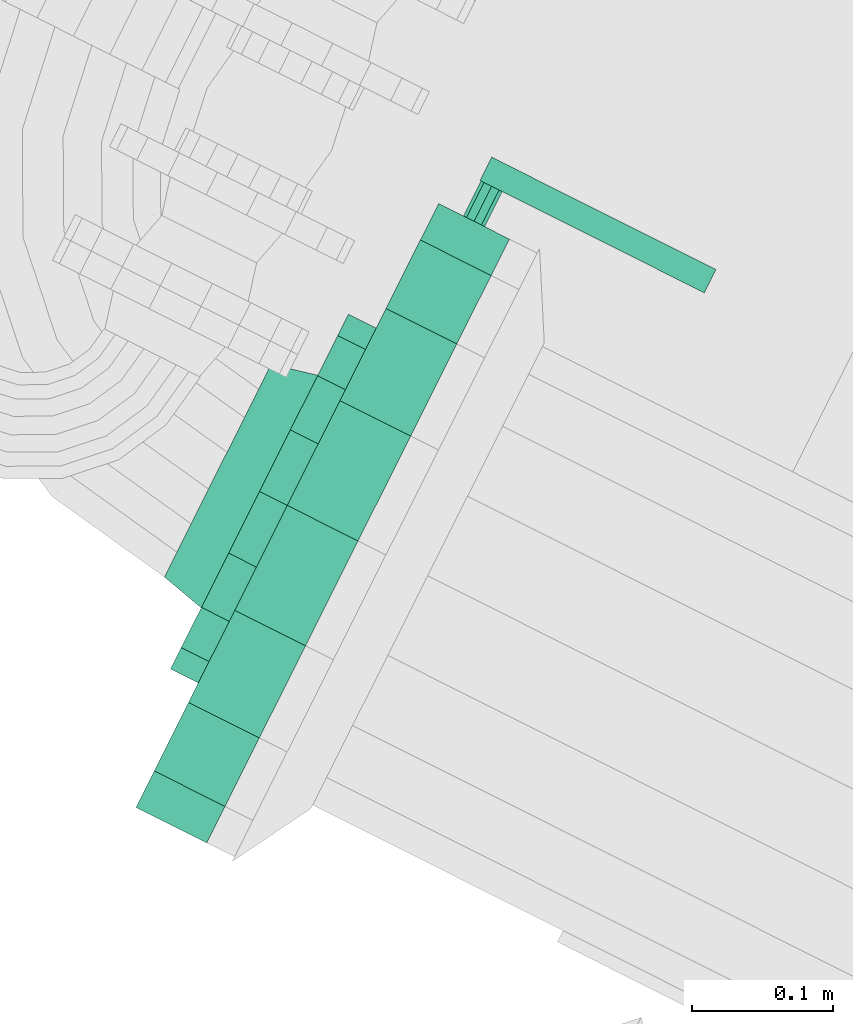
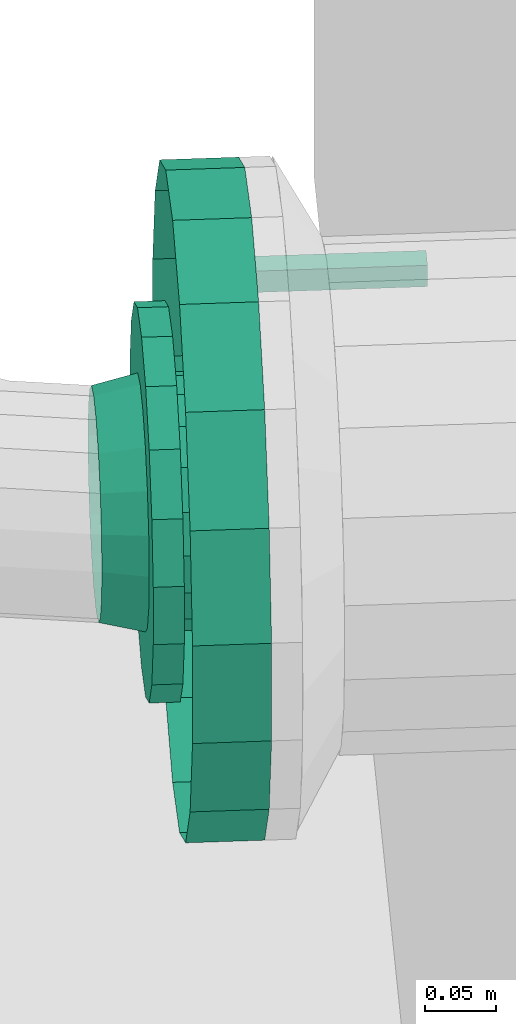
# One storey, part 43 of 206: 1 flow controller, 1 flow fitting.
"""IFC2X3 building model written with IfcOpenShell, lengths in metres."""

from ifc_helpers import new_model, si_unit, derived_unit, direction, frame, origin, place, context, subcontext, project, spatial, face_set, surface_model, source, transform, mapped, material, type_object, type_shapes, element, save


model = new_model("IFC2X3")

# Units and contexts
model_context = context("Model", 3, precision=5.2338327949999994e-05, world=origin(), true_north=direction((0.0, 1.0)))
body_context = subcontext(model_context, "Body", "Model", "MODEL_VIEW")
ifc_project = project(units=[si_unit("LENGTHUNIT", "METRE"), si_unit("AREAUNIT", "SQUARE_METRE"), si_unit("VOLUMEUNIT", "CUBIC_METRE"), si_unit("MASSUNIT", "GRAM", prefix="KILO"), si_unit("PLANEANGLEUNIT", "RADIAN"), derived_unit("THERMALTRANSMITTANCEUNIT", [(si_unit("MASSUNIT", "GRAM", prefix="KILO"), 1), (si_unit("THERMODYNAMICTEMPERATUREUNIT", "KELVIN"), -1), (si_unit("TIMEUNIT", "SECOND"), -3)])], contexts=[model_context])

# Site, building, storey
site_placement = place(None, frame((0.0, 0.0, 0.0), z_axis=(0.0, 0.0, 1.0), x_axis=(0.8939966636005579, -0.4480736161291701, 0.0)))
site = spatial("IfcSite", under=ifc_project, at=site_placement, Name="Default", CompositionType="ELEMENT")
building_placement = place(site_placement, origin())
building = spatial("IfcBuilding", under=site, at=building_placement, CompositionType="ELEMENT")
storey_placement = place(building_placement, origin())
storey = spatial("IfcBuildingStorey", under=building, at=storey_placement, Name="Erdgeschoss", CompositionType="ELEMENT", Elevation=0.0)

# Flow controller
ifc_material = material(Name="IfcSurfaceStyle #9317")
distribution_element_type_1 = type_object("IfcDistributionElementType", Name="Zwischenflanschklappe 342931:Zwischenflanschklappe 342931", material=ifc_material)
shared_shape_1 = source(origin(), body_context, "Body", "SurfaceModel", [
    surface_model("IfcFaceBasedSurfaceModel", [(22.686824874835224, 5.135912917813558, 2.3448), (22.509324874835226, 5.135912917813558, 2.3448), (22.509324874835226, 5.135912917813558, 2.3632), (22.686824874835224, 5.135912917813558, 2.3632), (22.509324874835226, 5.1543129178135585, 2.3632), (22.686824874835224, 5.1543129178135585, 2.3632), (22.509324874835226, 5.1543129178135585, 2.3448), (22.686824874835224, 5.1543129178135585, 2.3448), (22.546524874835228, 4.869312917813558, 2.445999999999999), (22.546524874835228, 4.900778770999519, 2.440451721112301), (22.52785820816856, 4.900778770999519, 2.440451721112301), (22.52785820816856, 4.869312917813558, 2.445999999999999), (22.546524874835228, 4.9284493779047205, 2.4244760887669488), (22.52785820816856, 4.9284493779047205, 2.4244760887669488), (22.546524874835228, 4.948987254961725, 2.3999999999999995), (22.52785820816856, 4.948987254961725, 2.3999999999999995), (22.546524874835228, 4.95991523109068, 2.3699756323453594), (22.52785820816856, 4.95991523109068, 2.3699756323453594), (22.546524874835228, 4.95991523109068, 2.338024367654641), (22.52785820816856, 4.95991523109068, 2.338024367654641), (22.546524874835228, 4.948987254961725, 2.3080000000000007), (22.52785820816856, 4.948987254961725, 2.3080000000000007), (22.546524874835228, 4.9284493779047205, 2.283523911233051), (22.52785820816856, 4.9284493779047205, 2.283523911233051), (22.546524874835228, 4.900778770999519, 2.2675482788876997), (22.52785820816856, 4.900778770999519, 2.2675482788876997), (22.546524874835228, 4.869312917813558, 2.2620000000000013), (22.52785820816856, 4.869312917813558, 2.2620000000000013), (22.546524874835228, 4.837847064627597, 2.2675482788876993), (22.52785820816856, 4.837847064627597, 2.2675482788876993), (22.546524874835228, 4.810176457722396, 2.283523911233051), (22.52785820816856, 4.810176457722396, 2.283523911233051), (22.546524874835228, 4.7896385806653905, 2.3080000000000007), (22.52785820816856, 4.7896385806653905, 2.3080000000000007), (22.546524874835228, 4.778710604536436, 2.338024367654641), (22.52785820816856, 4.778710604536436, 2.338024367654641), (22.546524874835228, 4.778710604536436, 2.3699756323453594), (22.52785820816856, 4.778710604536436, 2.3699756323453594), (22.546524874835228, 4.78963858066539, 2.3999999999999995), (22.52785820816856, 4.78963858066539, 2.3999999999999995), (22.546524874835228, 4.810176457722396, 2.4244760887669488), (22.52785820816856, 4.810176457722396, 2.4244760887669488), (22.546524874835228, 4.837847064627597, 2.440451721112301), (22.52785820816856, 4.837847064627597, 2.440451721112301), (22.546524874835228, 4.869312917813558, 2.354), (22.52785820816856, 4.869312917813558, 2.354), (22.52785820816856, 4.869312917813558, 2.4964999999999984), (22.52785820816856, 4.918050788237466, 2.4879061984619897), (22.509191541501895, 4.918050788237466, 2.4879061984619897), (22.509191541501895, 4.869312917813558, 2.4964999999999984), (22.52785820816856, 4.9609101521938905, 2.463161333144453), (22.509191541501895, 4.9609101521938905, 2.463161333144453), (22.52785820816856, 4.992721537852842, 2.4252499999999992), (22.509191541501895, 4.992721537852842, 2.4252499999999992), (22.52785820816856, 5.009648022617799, 2.378744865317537), (22.509191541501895, 5.009648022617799, 2.378744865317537), (22.52785820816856, 5.009648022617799, 2.3292551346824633), (22.509191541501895, 5.009648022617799, 2.3292551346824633), (22.52785820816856, 4.992721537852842, 2.282750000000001), (22.509191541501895, 4.992721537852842, 2.282750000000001), (22.52785820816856, 4.9609101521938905, 2.244838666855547), (22.509191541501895, 4.9609101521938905, 2.244838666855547), (22.52785820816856, 4.918050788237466, 2.2200938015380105), (22.509191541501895, 4.918050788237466, 2.2200938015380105), (22.52785820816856, 4.869312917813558, 2.211500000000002), (22.509191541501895, 4.869312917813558, 2.211500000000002), (22.52785820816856, 4.820575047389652, 2.2200938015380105), (22.509191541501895, 4.820575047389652, 2.2200938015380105), (22.52785820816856, 4.777715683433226, 2.2448386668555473), (22.509191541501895, 4.777715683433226, 2.2448386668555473), (22.52785820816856, 4.745904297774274, 2.2827500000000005), (22.509191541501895, 4.745904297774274, 2.2827500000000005), (22.52785820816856, 4.728977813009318, 2.3292551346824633), (22.509191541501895, 4.728977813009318, 2.3292551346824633), (22.52785820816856, 4.728977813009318, 2.378744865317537), (22.509191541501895, 4.728977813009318, 2.378744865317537), (22.52785820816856, 4.745904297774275, 2.4252499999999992), (22.509191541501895, 4.745904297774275, 2.4252499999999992), (22.52785820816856, 4.777715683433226, 2.463161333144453), (22.509191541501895, 4.777715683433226, 2.463161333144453), (22.52785820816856, 4.820575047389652, 2.4879061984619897), (22.509191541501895, 4.820575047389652, 2.4879061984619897), (22.509191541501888, 4.869312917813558, 2.354), (22.509191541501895, 4.869312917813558, 2.445999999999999), (22.509191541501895, 4.900778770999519, 2.440451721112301), (22.490524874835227, 4.900778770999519, 2.440451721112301), (22.490524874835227, 4.869312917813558, 2.445999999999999), (22.509191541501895, 4.9284493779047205, 2.4244760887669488), (22.490524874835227, 4.9284493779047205, 2.4244760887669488), (22.509191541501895, 4.948987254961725, 2.3999999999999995), (22.490524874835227, 4.948987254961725, 2.3999999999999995), (22.509191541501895, 4.95991523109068, 2.3699756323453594), (22.490524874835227, 4.95991523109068, 2.3699756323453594), (22.509191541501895, 4.95991523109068, 2.338024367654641), (22.490524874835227, 4.95991523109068, 2.338024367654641), (22.509191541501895, 4.948987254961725, 2.3080000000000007), (22.490524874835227, 4.948987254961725, 2.3080000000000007), (22.509191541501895, 4.9284493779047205, 2.283523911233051), (22.490524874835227, 4.9284493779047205, 2.283523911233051), (22.509191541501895, 4.900778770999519, 2.2675482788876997), (22.490524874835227, 4.900778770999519, 2.2675482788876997), (22.509191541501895, 4.869312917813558, 2.2620000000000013), (22.490524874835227, 4.869312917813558, 2.2620000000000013), (22.509191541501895, 4.837847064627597, 2.2675482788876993), (22.490524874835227, 4.837847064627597, 2.2675482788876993), (22.509191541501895, 4.810176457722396, 2.283523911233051), (22.490524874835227, 4.810176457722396, 2.283523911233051), (22.509191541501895, 4.7896385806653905, 2.3080000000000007), (22.490524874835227, 4.7896385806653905, 2.3080000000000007), (22.509191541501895, 4.778710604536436, 2.338024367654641), (22.490524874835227, 4.778710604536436, 2.338024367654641), (22.509191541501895, 4.778710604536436, 2.3699756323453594), (22.490524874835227, 4.778710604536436, 2.3699756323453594), (22.509191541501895, 4.78963858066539, 2.3999999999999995), (22.490524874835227, 4.78963858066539, 2.3999999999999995), (22.509191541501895, 4.810176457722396, 2.4244760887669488), (22.490524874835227, 4.810176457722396, 2.4244760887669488), (22.509191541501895, 4.837847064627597, 2.440451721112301), (22.490524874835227, 4.837847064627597, 2.440451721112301), (22.490524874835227, 4.869312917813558, 2.354), (22.51852487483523, 4.869312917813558, 2.3633333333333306), (22.521717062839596, 4.869312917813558, 2.362770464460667), (22.521717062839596, 5.073862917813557, 2.362770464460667), (22.51852487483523, 5.073862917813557, 2.3633333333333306), (22.524524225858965, 4.869312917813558, 2.3611497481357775), (22.524524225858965, 5.073862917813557, 2.3611497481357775), (22.526607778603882, 4.869312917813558, 2.3586666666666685), (22.526607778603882, 5.073862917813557, 2.3586666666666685), (22.52771641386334, 4.869312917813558, 2.35562071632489), (22.52771641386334, 5.073862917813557, 2.35562071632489), (22.52771641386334, 4.869312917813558, 2.35237928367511), (22.52771641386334, 5.073862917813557, 2.35237928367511), (22.526607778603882, 4.869312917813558, 2.3493333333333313), (22.526607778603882, 5.073862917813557, 2.3493333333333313), (22.524524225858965, 4.869312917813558, 2.3468502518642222), (22.524524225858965, 5.073862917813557, 2.3468502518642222), (22.521717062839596, 4.869312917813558, 2.3452295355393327), (22.521717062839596, 5.073862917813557, 2.3452295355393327), (22.51852487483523, 4.869312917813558, 2.3446666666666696), (22.51852487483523, 5.073862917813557, 2.3446666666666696), (22.515332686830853, 4.869312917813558, 2.3452295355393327), (22.515332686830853, 5.073862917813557, 2.3452295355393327), (22.512525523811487, 4.869312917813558, 2.3468502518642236), (22.512525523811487, 5.073862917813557, 2.3468502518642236), (22.510441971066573, 4.869312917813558, 2.3493333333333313), (22.510441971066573, 5.073862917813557, 2.3493333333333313), (22.50933333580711, 4.869312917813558, 2.35237928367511), (22.50933333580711, 5.073862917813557, 2.35237928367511), (22.50933333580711, 4.869312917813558, 2.35562071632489), (22.50933333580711, 5.073862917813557, 2.35562071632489), (22.510441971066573, 4.869312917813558, 2.3586666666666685), (22.510441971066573, 5.073862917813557, 2.3586666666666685), (22.512525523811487, 4.869312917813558, 2.3611497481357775), (22.512525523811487, 5.073862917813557, 2.3611497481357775), (22.515332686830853, 4.869312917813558, 2.362770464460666), (22.515332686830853, 5.073862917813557, 2.362770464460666), (22.51852487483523, 4.869312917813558, 2.354), (22.51852487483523, 5.073862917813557, 2.354), (22.51852487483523, 5.073862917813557, 2.3624149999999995), (22.52447517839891, 5.073862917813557, 2.359950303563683), (22.52447517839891, 5.135912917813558, 2.359950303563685), (22.51852487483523, 5.135912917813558, 2.3624150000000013), (22.52693987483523, 5.073862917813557, 2.3540000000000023), (22.52693987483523, 5.135912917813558, 2.3540000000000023), (22.52447517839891, 5.073862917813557, 2.3480496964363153), (22.52447517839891, 5.135912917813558, 2.3480496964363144), (22.51852487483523, 5.073862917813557, 2.3455850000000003), (22.51852487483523, 5.135912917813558, 2.3455850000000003), (22.51257457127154, 5.073862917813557, 2.348049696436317), (22.51257457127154, 5.135912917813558, 2.3480496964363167), (22.51010987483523, 5.073862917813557, 2.354000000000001), (22.51010987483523, 5.135912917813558, 2.354000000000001), (22.51257457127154, 5.073862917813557, 2.3599503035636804), (22.51257457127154, 5.135912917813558, 2.3599503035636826), (22.51852487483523, 5.135912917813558, 2.354), (22.546524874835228, 4.869312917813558, 2.5965000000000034), (22.546524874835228, 4.952252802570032, 2.5818754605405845), (22.490524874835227, 4.952252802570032, 2.5818754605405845), (22.490524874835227, 4.869312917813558, 2.5965000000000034), (22.546524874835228, 5.025188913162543, 2.539765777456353), (22.490524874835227, 5.025188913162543, 2.539765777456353), (22.546524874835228, 5.0793240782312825, 2.475250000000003), (22.490524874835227, 5.0793240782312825, 2.475250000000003), (22.546524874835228, 5.108128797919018, 2.396109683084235), (22.490524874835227, 5.108128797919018, 2.396109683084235), (22.546524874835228, 5.108128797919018, 2.3118903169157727), (22.490524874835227, 5.108128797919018, 2.3118903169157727), (22.546524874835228, 5.079324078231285, 2.2327500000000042), (22.490524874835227, 5.079324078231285, 2.2327500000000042), (22.546524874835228, 5.025188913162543, 2.16823422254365), (22.490524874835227, 5.025188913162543, 2.16823422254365), (22.546524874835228, 4.952252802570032, 2.1261245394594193), (22.490524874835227, 4.952252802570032, 2.1261245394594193), (22.546524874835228, 4.869312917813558, 2.1115000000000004), (22.490524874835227, 4.869312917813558, 2.1115000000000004), (22.546524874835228, 4.786373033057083, 2.1261245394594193), (22.490524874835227, 4.786373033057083, 2.1261245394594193), (22.546524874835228, 4.713436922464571, 2.16823422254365), (22.490524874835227, 4.713436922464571, 2.16823422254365), (22.546524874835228, 4.6593017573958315, 2.2327500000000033), (22.490524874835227, 4.6593017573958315, 2.2327500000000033), (22.546524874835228, 4.630497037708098, 2.311890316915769), (22.490524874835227, 4.630497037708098, 2.311890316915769), (22.546524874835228, 4.630497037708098, 2.396109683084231), (22.490524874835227, 4.630497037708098, 2.396109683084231), (22.546524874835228, 4.65930175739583, 2.475250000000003), (22.490524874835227, 4.65930175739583, 2.475250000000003), (22.546524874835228, 4.713436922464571, 2.539765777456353), (22.490524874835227, 4.713436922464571, 2.539765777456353), (22.546524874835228, 4.786373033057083, 2.5818754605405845), (22.490524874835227, 4.786373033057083, 2.5818754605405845)], [face_set([[[0, 1, 2, 3]], [[3, 2, 4, 5]], [[5, 4, 6, 7]], [[7, 6, 1, 0]], [[0, 3, 5, 7]], [[6, 4, 2, 1]], [[8, 9, 10, 11]], [[9, 12, 13, 10]], [[12, 14, 15, 13]], [[14, 16, 17, 15]], [[16, 18, 19, 17]], [[18, 20, 21, 19]], [[20, 22, 23, 21]], [[22, 24, 25, 23]], [[24, 26, 27, 25]], [[26, 28, 29, 27]], [[28, 30, 31, 29]], [[30, 32, 33, 31]], [[32, 34, 35, 33]], [[34, 36, 37, 35]], [[36, 38, 39, 37]], [[38, 40, 41, 39]], [[40, 42, 43, 41]], [[42, 8, 11, 43]], [[44, 9, 8]], [[44, 12, 9]], [[44, 14, 12]], [[44, 16, 14]], [[44, 18, 16]], [[44, 20, 18]], [[44, 22, 20]], [[44, 24, 22]], [[44, 26, 24]], [[44, 28, 26]], [[44, 30, 28]], [[44, 32, 30]], [[44, 34, 32]], [[44, 36, 34]], [[44, 38, 36]], [[44, 40, 38]], [[44, 42, 40]], [[44, 8, 42]], [[45, 43, 11]], [[45, 41, 43]], [[45, 39, 41]], [[45, 37, 39]], [[45, 35, 37]], [[45, 33, 35]], [[45, 31, 33]], [[45, 29, 31]], [[45, 27, 29]], [[45, 25, 27]], [[45, 23, 25]], [[45, 21, 23]], [[45, 19, 21]], [[45, 17, 19]], [[45, 15, 17]], [[45, 13, 15]], [[45, 10, 13]], [[45, 11, 10]], [[46, 47, 48, 49]], [[47, 50, 51, 48]], [[50, 52, 53, 51]], [[52, 54, 55, 53]], [[54, 56, 57, 55]], [[56, 58, 59, 57]], [[58, 60, 61, 59]], [[60, 62, 63, 61]], [[62, 64, 65, 63]], [[64, 66, 67, 65]], [[66, 68, 69, 67]], [[68, 70, 71, 69]], [[70, 72, 73, 71]], [[72, 74, 75, 73]], [[74, 76, 77, 75]], [[76, 78, 79, 77]], [[78, 80, 81, 79]], [[80, 46, 49, 81]], [[45, 47, 46]], [[45, 50, 47]], [[45, 52, 50]], [[45, 54, 52]], [[45, 56, 54]], [[45, 58, 56]], [[45, 60, 58]], [[45, 62, 60]], [[45, 64, 62]], [[45, 66, 64]], [[45, 68, 66]], [[45, 70, 68]], [[45, 72, 70]], [[45, 74, 72]], [[45, 76, 74]], [[45, 78, 76]], [[45, 80, 78]], [[45, 46, 80]], [[82, 81, 49]], [[82, 79, 81]], [[82, 77, 79]], [[82, 75, 77]], [[82, 73, 75]], [[82, 71, 73]], [[82, 69, 71]], [[82, 67, 69]], [[82, 65, 67]], [[82, 63, 65]], [[82, 61, 63]], [[82, 59, 61]], [[82, 57, 59]], [[82, 55, 57]], [[82, 53, 55]], [[82, 51, 53]], [[82, 48, 51]], [[82, 49, 48]], [[83, 84, 85, 86]], [[84, 87, 88, 85]], [[87, 89, 90, 88]], [[89, 91, 92, 90]], [[91, 93, 94, 92]], [[93, 95, 96, 94]], [[95, 97, 98, 96]], [[97, 99, 100, 98]], [[99, 101, 102, 100]], [[101, 103, 104, 102]], [[103, 105, 106, 104]], [[105, 107, 108, 106]], [[107, 109, 110, 108]], [[109, 111, 112, 110]], [[111, 113, 114, 112]], [[113, 115, 116, 114]], [[115, 117, 118, 116]], [[117, 83, 86, 118]], [[82, 84, 83]], [[82, 87, 84]], [[82, 89, 87]], [[82, 91, 89]], [[82, 93, 91]], [[82, 95, 93]], [[82, 97, 95]], [[82, 99, 97]], [[82, 101, 99]], [[82, 103, 101]], [[82, 105, 103]], [[82, 107, 105]], [[82, 109, 107]], [[82, 111, 109]], [[82, 113, 111]], [[82, 115, 113]], [[82, 117, 115]], [[82, 83, 117]], [[119, 118, 86]], [[119, 116, 118]], [[119, 114, 116]], [[119, 112, 114]], [[119, 110, 112]], [[119, 108, 110]], [[119, 106, 108]], [[119, 104, 106]], [[119, 102, 104]], [[119, 100, 102]], [[119, 98, 100]], [[119, 96, 98]], [[119, 94, 96]], [[119, 92, 94]], [[119, 90, 92]], [[119, 88, 90]], [[119, 85, 88]], [[119, 86, 85]], [[120, 121, 122, 123]], [[121, 124, 125, 122]], [[124, 126, 127, 125]], [[126, 128, 129, 127]], [[128, 130, 131, 129]], [[130, 132, 133, 131]], [[132, 134, 135, 133]], [[134, 136, 137, 135]], [[136, 138, 139, 137]], [[138, 140, 141, 139]], [[140, 142, 143, 141]], [[142, 144, 145, 143]], [[144, 146, 147, 145]], [[146, 148, 149, 147]], [[148, 150, 151, 149]], [[150, 152, 153, 151]], [[152, 154, 155, 153]], [[154, 120, 123, 155]], [[156, 121, 120]], [[156, 124, 121]], [[156, 126, 124]], [[156, 128, 126]], [[156, 130, 128]], [[156, 132, 130]], [[156, 134, 132]], [[156, 136, 134]], [[156, 138, 136]], [[156, 140, 138]], [[156, 142, 140]], [[156, 144, 142]], [[156, 146, 144]], [[156, 148, 146]], [[156, 150, 148]], [[156, 152, 150]], [[156, 154, 152]], [[156, 120, 154]], [[157, 155, 123]], [[157, 153, 155]], [[157, 151, 153]], [[157, 149, 151]], [[157, 147, 149]], [[157, 145, 147]], [[157, 143, 145]], [[157, 141, 143]], [[157, 139, 141]], [[157, 137, 139]], [[157, 135, 137]], [[157, 133, 135]], [[157, 131, 133]], [[157, 129, 131]], [[157, 127, 129]], [[157, 125, 127]], [[157, 122, 125]], [[157, 123, 122]], [[158, 159, 160, 161]], [[159, 162, 163, 160]], [[162, 164, 165, 163]], [[164, 166, 167, 165]], [[166, 168, 169, 167]], [[168, 170, 171, 169]], [[170, 172, 173, 171]], [[172, 158, 161, 173]], [[174, 173, 161]], [[174, 171, 173]], [[174, 169, 171]], [[174, 167, 169]], [[174, 165, 167]], [[174, 163, 165]], [[174, 160, 163]], [[174, 161, 160]], [[175, 176, 177, 178]], [[176, 179, 180, 177]], [[179, 181, 182, 180]], [[181, 183, 184, 182]], [[183, 185, 186, 184]], [[185, 187, 188, 186]], [[187, 189, 190, 188]], [[189, 191, 192, 190]], [[191, 193, 194, 192]], [[193, 195, 196, 194]], [[195, 197, 198, 196]], [[197, 199, 200, 198]], [[199, 201, 202, 200]], [[201, 203, 204, 202]], [[203, 205, 206, 204]], [[205, 207, 208, 206]], [[207, 209, 210, 208]], [[209, 175, 178, 210]]])]),
])
type_shapes(distribution_element_type_1, [shared_shape_1])
flow_controller_placement = place(storey_placement, origin())
element("IfcFlowController", 1, at=flow_controller_placement, inside=storey, type_object=distribution_element_type_1, material=ifc_material, Name="Zwischenflanschklappe", ObjectType="Zwischenflanschklappe", context=body_context, shape_type="MappedRepresentation", body=[
    mapped(shared_shape_1, transform((0.0, 0.0, 0.0), scale=1.0)),
])

# Flow fitting
distribution_element_type_2 = type_object("IfcDistributionElementType", Name="Flansch 342954:Flansch 342954", material=ifc_material)
shared_shape_2 = source(origin(), body_context, "Body", "SurfaceModel", [
    surface_model("IfcFaceBasedSurfaceModel", [(22.435524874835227, 4.785162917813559, 2.3539999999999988), (22.435524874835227, 4.790237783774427, 2.3252190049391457), (22.46852487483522, 4.7828611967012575, 2.3225341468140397), (22.46852487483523, 4.777312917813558, 2.3539999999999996), (22.435524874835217, 4.804850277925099, 2.29990942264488), (22.46852487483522, 4.798836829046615, 2.2948635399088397), (22.435524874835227, 4.827237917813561, 2.28112396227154), (22.46852487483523, 4.823312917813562, 2.2743256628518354), (22.43552487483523, 4.85470042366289, 2.271128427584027), (22.46852487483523, 4.853337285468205, 2.2633976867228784), (22.43552487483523, 4.883925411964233, 2.2711284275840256), (22.46852487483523, 4.88528855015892, 2.2633976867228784), (22.43552487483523, 4.911387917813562, 2.2811239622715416), (22.46852487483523, 4.915312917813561, 2.274325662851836), (22.435524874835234, 4.933775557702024, 2.2999094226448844), (22.468524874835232, 4.939789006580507, 2.2948635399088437), (22.435524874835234, 4.948388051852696, 2.325219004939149), (22.468524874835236, 4.955764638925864, 2.3225341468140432), (22.435524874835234, 4.953462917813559, 2.354000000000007), (22.468524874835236, 4.96131291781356, 2.3540000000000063), (22.435524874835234, 4.948388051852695, 2.3827809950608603), (22.468524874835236, 4.955764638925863, 2.3854658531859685), (22.435524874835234, 4.933775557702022, 2.4080905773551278), (22.46852487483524, 4.939789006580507, 2.4131364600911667), (22.435524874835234, 4.911387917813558, 2.426876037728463), (22.468524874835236, 4.915312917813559, 2.4336743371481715), (22.435524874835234, 4.883925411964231, 2.4368715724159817), (22.468524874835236, 4.885288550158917, 2.4446023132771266), (22.435524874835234, 4.8547004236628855, 2.4368715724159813), (22.468524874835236, 4.8533372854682, 2.4446023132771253), (22.435524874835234, 4.827237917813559, 2.4268760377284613), (22.468524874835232, 4.823312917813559, 2.4336743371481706), (22.435524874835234, 4.804850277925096, 2.4080905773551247), (22.468524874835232, 4.798836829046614, 2.4131364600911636), (22.43552487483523, 4.790237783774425, 2.3827809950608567), (22.46852487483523, 4.782861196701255, 2.385465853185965), (22.468524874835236, 4.820575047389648, 2.487906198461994), (22.468524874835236, 4.777715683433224, 2.4631613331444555), (22.490524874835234, 4.7777156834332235, 2.463161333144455), (22.49052487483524, 4.820575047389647, 2.487906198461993), (22.46852487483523, 4.745904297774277, 2.425249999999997), (22.49052487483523, 4.745904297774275, 2.4252499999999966), (22.46852487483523, 4.728977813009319, 2.378744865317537), (22.490524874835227, 4.728977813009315, 2.378744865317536), (22.46852487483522, 4.728977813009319, 2.329255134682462), (22.490524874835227, 4.728977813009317, 2.329255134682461), (22.46852487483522, 4.745904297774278, 2.2827499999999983), (22.490524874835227, 4.745904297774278, 2.2827499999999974), (22.46852487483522, 4.77771568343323, 2.2448386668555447), (22.490524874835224, 4.777715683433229, 2.244838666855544), (22.46852487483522, 4.820575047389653, 2.2200938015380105), (22.490524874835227, 4.820575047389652, 2.22009380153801), (22.46852487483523, 4.91805078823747, 2.2200938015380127), (22.46852487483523, 4.960910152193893, 2.2448386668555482), (22.49052487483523, 4.960910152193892, 2.244838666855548), (22.49052487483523, 4.918050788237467, 2.220093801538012), (22.468524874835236, 4.992721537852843, 2.282750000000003), (22.490524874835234, 4.992721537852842, 2.282750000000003), (22.468524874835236, 5.009648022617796, 2.329255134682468), (22.490524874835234, 5.009648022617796, 2.3292551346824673), (22.468524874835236, 5.009648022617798, 2.3787448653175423), (22.490524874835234, 5.009648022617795, 2.3787448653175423), (22.46852487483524, 4.992721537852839, 2.425250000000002), (22.490524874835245, 4.992721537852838, 2.425250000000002), (22.468524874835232, 4.960910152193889, 2.463161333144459), (22.490524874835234, 4.960910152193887, 2.463161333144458), (22.468524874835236, 4.9180507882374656, 2.487906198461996), (22.490524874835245, 4.918050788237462, 2.4879061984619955), (22.46852487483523, 4.869312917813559, 2.3540000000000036), (22.468524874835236, 4.869312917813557, 2.496500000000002), (22.46852487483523, 4.869312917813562, 2.2115000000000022), (22.490524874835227, 4.869312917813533, 2.21149999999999), (22.490524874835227, 4.869312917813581, 2.496500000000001)], [face_set([[[0, 1, 2, 3]], [[1, 4, 5, 2]], [[4, 6, 7, 5]], [[6, 8, 9, 7]], [[8, 10, 11, 9]], [[10, 12, 13, 11]], [[12, 14, 15, 13]], [[14, 16, 17, 15]], [[16, 18, 19, 17]], [[18, 20, 21, 19]], [[20, 22, 23, 21]], [[22, 24, 25, 23]], [[24, 26, 27, 25]], [[26, 28, 29, 27]], [[28, 30, 31, 29]], [[30, 32, 33, 31]], [[32, 34, 35, 33]], [[34, 0, 3, 35]], [[36, 37, 38, 39]], [[37, 40, 41, 38]], [[40, 42, 43, 41]], [[42, 44, 45, 43]], [[44, 46, 47, 45]], [[46, 48, 49, 47]], [[48, 50, 51, 49]], [[52, 53, 54, 55]], [[53, 56, 57, 54]], [[56, 58, 59, 57]], [[58, 60, 61, 59]], [[60, 62, 63, 61]], [[62, 64, 65, 63]], [[64, 66, 67, 65]], [[68, 36, 69]], [[68, 37, 36]], [[68, 40, 37]], [[68, 42, 40]], [[68, 44, 42]], [[68, 46, 44]], [[68, 48, 46]], [[68, 50, 48]], [[68, 70, 50]], [[68, 52, 70]], [[68, 53, 52]], [[68, 56, 53]], [[68, 58, 56]], [[68, 60, 58]], [[68, 62, 60]], [[68, 64, 62]], [[68, 66, 64]], [[68, 69, 66]], [[50, 70, 71, 51]], [[70, 52, 55, 71]], [[69, 36, 39, 72]], [[66, 69, 72, 67]]])]),
])
type_shapes(distribution_element_type_2, [shared_shape_2])
flow_fitting_placement = place(storey_placement, origin())
element("IfcFlowFitting", 2, at=flow_fitting_placement, inside=storey, type_object=distribution_element_type_2, material=ifc_material, Name="Flansch", ObjectType="Flansch", context=body_context, shape_type="MappedRepresentation", body=[
    mapped(shared_shape_2, transform((0.0, 0.0, 0.0), scale=1.0)),
])

save(model, "model.ifc")
